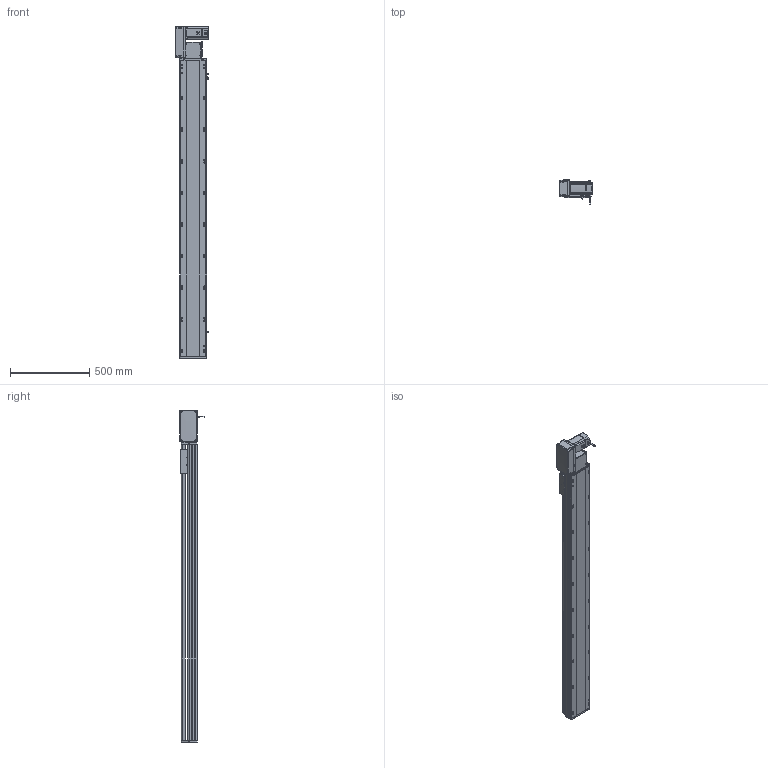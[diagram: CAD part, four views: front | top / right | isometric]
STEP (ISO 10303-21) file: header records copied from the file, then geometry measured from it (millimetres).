
FILE_DESCRIPTION (( 'STEP AP214' ), '1' );
FILE_NAME ('RTB17S-XX-1600-L-M75-C4.STEP', '2025-12-12T00:16:30', ( '' ), ( '' ), 'SwSTEP 2.0', 'SolidWorks 2018', '' );
FILE_SCHEMA (( 'AUTOMOTIVE_DESIGN' ));
Length unit declared in the file: millimetre
Products named in the file (15): RTB17-R-011菁釱^RTB17S-XX-XX-L-M75-C4; RTH13-BL-012覜茼え俋离^RTB17S-賑釱_RTB17S-XX-XX-L-M75-C4; RMP17S-L-014-T20-P75--々湍釱^RTB17S-L-々湍釱蚾饜-750W_RTB17S-XX-XX-L-M75-C4; RTB22S-GY-005P^RTB17S-L-々湍釱蚾饜-750W_RTB17S-XX-XX-L-M75-C4; RTB17S-L-004-賑釱^RTB17S-賑釱_RTB17S-XX-XX-L-M75-C4; RTB22S-GY-008-M75--萇儂啣^RTB17S-L-々湍釱蚾饜-750W_RTB17S-XX-XX-L-M75-C4; 750W萇儂^RTB17S-XX-XX-L-M75-C4; RTB17S-賑釱^RTB17S-XX-XX-L-M75-C4; RTB17S-L-007奻裔^RTB17S-XX-XX-L-M75-C4; RTB17S-XX-1600-L-M75-C4; RTB17S-L-々湍釱蚾饜-750W^RTB17S-XX-XX-L-M75-C4; RTB22S-GY-018P^RTB17S-L-々湍釱蚾饜-750W_RTB17S-XX-XX-L-M75-C4; EE672^RTB17S-XX-XX-L-M75-C4; RTB17S-L-001-耜醱啣^RTB17S-XX-XX-L-M75-C4; RTB22S-GY-017P^RTB17S-L-々湍釱蚾饜-750W_RTB17S-XX-XX-L-M75-C4
Assembly tree (17 placements, depth 3):
  RTB17S-XX-1600-L-M75-C4
    RTB17-R-011菁釱^RTB17S-XX-XX-L-M75-C4
    EE672^RTB17S-XX-XX-L-M75-C4  x3
    RTB17S-L-001-耜醱啣^RTB17S-XX-XX-L-M75-C4
    RTB17S-賑釱^RTB17S-XX-XX-L-M75-C4
      RTB17S-L-004-賑釱^RTB17S-賑釱_RTB17S-XX-XX-L-M75-C4
      RTH13-BL-012覜茼え俋离^RTB17S-賑釱_RTB17S-XX-XX-L-M75-C4
    RTB17S-L-007奻裔^RTB17S-XX-XX-L-M75-C4
    750W萇儂^RTB17S-XX-XX-L-M75-C4
    RTB17S-L-々湍釱蚾饜-750W^RTB17S-XX-XX-L-M75-C4
      RMP17S-L-014-T20-P75--々湍釱^RTB17S-L-々湍釱蚾饜-750W_RTB17S-XX-XX-L-M75-C4
      RTB22S-GY-005P^RTB17S-L-々湍釱蚾饜-750W_RTB17S-XX-XX-L-M75-C4
      RTB22S-GY-017P^RTB17S-L-々湍釱蚾饜-750W_RTB17S-XX-XX-L-M75-C4  x2
      RTB22S-GY-008-M75--萇儂啣^RTB17S-L-々湍釱蚾饜-750W_RTB17S-XX-XX-L-M75-C4
      RTB22S-GY-018P^RTB17S-L-々湍釱蚾饜-750W_RTB17S-XX-XX-L-M75-C4
Bounding box: 210.4 x 152.7 x 2099 mm (x, y, z)
Volume: 15954455.5 mm3; surface area: 2807017.3 mm2
Topology: 17 solids, 17 shells, 2137 faces, 5944 edges, 3842 vertices
Faces by surface type: plane 976, cylinder 745, bspline 294, cone 110, sphere 8, torus 4
Entity records: 60406 total; most frequent: CARTESIAN_POINT 17808, ORIENTED_EDGE 8732, DIRECTION 8132, EDGE_CURVE 4366, AXIS2_PLACEMENT_3D 2862, VERTEX_POINT 2846, LINE 2408, VECTOR 2408
